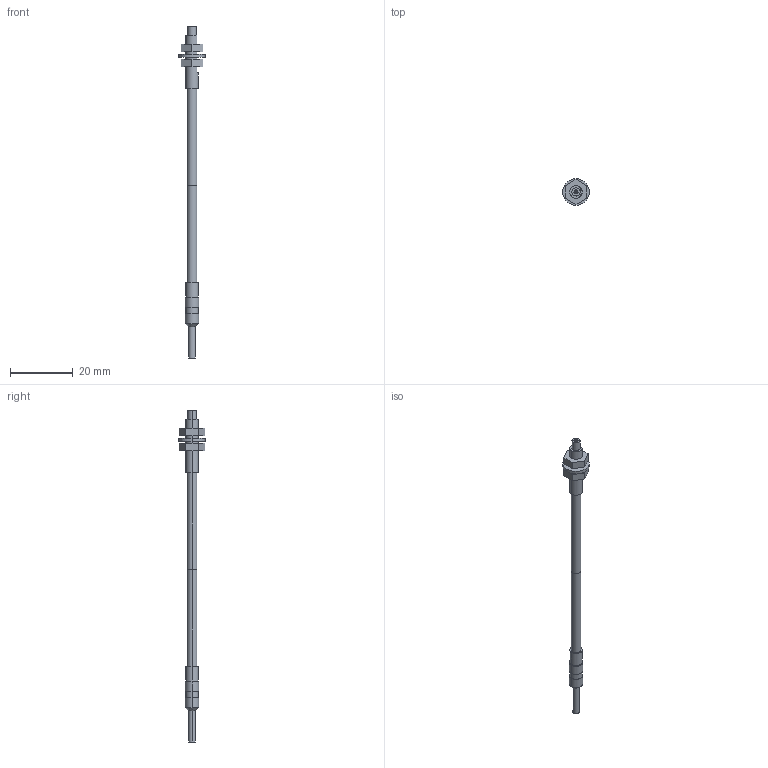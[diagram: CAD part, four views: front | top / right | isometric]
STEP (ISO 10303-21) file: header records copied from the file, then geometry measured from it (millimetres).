
FILE_DESCRIPTION (( 'STEP AP203' ), '1' );
FILE_NAME ('FT-P81X.STEP', '2005-09-08T02:20:26', ( '' ), ( '' ), 'SwSTEP 2.0', 'SolidWorks 2004073', '' );
FILE_SCHEMA (( 'CONFIG_CONTROL_DESIGN' ));
Length unit declared in the file: millimetre
Products named in the file (1): FT-P81X
Bounding box: 8.5 x 8.5 x 106.2 mm (x, y, z)
Volume: 1099.5 mm3; surface area: 1572.9 mm2
Topology: 5 solids, 5 shells, 110 faces, 226 edges, 150 vertices
Faces by surface type: cylinder 60, plane 48, cone 2
Entity records: 3039 total; most frequent: DIRECTION 572, CARTESIAN_POINT 487, ORIENTED_EDGE 452, AXIS2_PLACEMENT_3D 235, EDGE_CURVE 226, VERTEX_POINT 150, EDGE_LOOP 140, CIRCLE 124
